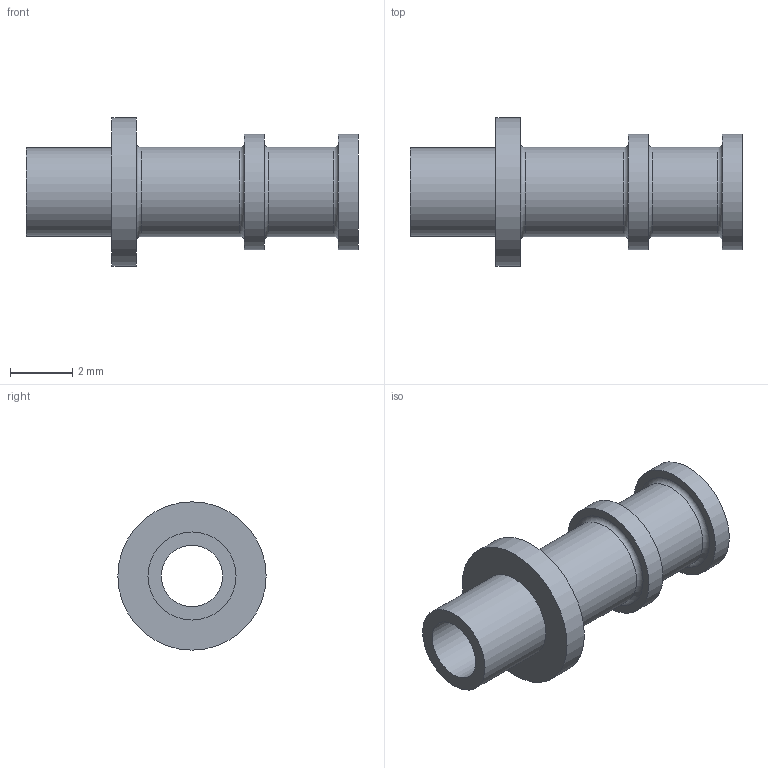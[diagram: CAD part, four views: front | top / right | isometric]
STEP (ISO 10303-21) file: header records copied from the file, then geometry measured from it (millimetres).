
FILE_DESCRIPTION(/* description */ (''),/* implementation_level */ '2;1');
FILE_NAME(/* name */ 'Z:\STEP folder\160-1548-02.ipt.stp',/* time_stamp */ '2016-12-07T10:47:54+00:00',/* author */ ('Paul Karlsons'),/* organization */ (''),/* preprocessor_version */ 'ST-DEVELOPER v15.2',/* originating_system */ 'Autodesk Inventor 2014',/* authorisation */ '');
FILE_SCHEMA (('AUTOMOTIVE_DESIGN { 1 0 10303 214 3 1 1 }'));
Length unit declared in the file: millimetre
Products named in the file (1): 160-1548-02
Bounding box: 10.69 x 4.78 x 4.78 mm (x, y, z)
Volume: 50.6 mm3; surface area: 215.4 mm2
Topology: 1 solids, 1 shells, 18 faces, 30 edges, 19 vertices
Faces by surface type: cylinder 7, plane 7, torus 4
Full cylindrical faces by diameter (mm): 1.98 x1, 2.84 x1, 2.87 x2, 3.708 x2, 4.775 x1
Entity records: 389 total; most frequent: DIRECTION 74, CARTESIAN_POINT 55, AXIS2_PLACEMENT_3D 37, EDGE_LOOP 36, ORIENTED_EDGE 36, FACE_BOUND 20, CIRCLE 18, VERTEX_POINT 18
